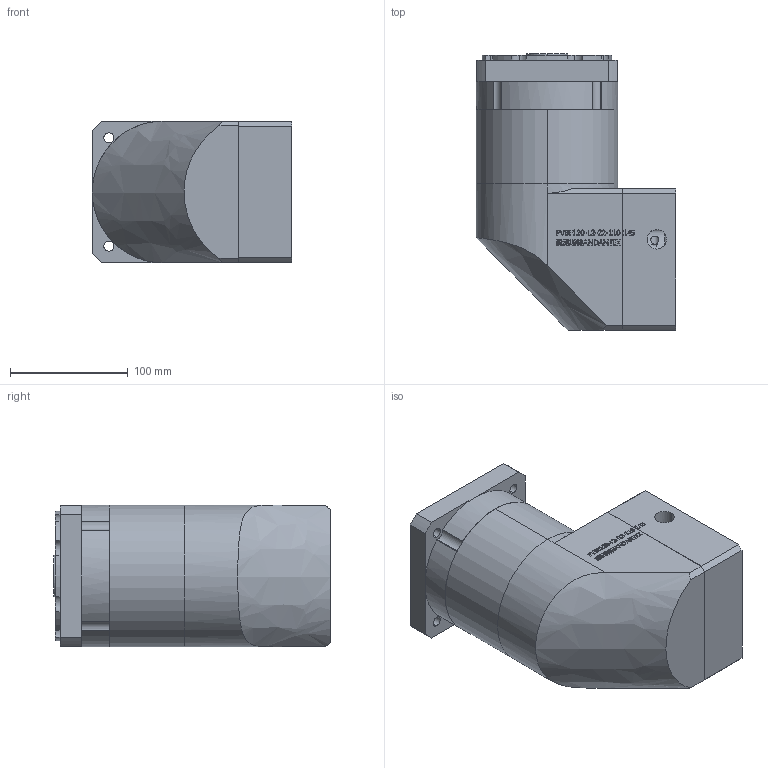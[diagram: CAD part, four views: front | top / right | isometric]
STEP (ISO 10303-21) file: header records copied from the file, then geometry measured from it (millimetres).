
FILE_DESCRIPTION (( 'STEP AP203' ), '1' );
FILE_NAME ('PVBF120-L2-22-110-145.STEP', '2023-11-03T07:19:54', ( 'Windows User' ), ( 'P R C' ), 'SwSTEP 2.0', 'SolidWorks 2016', '' );
FILE_SCHEMA (( 'CONFIG_CONTROL_DESIGN' ));
Length unit declared in the file: millimetre
Products named in the file (8): PVBF120-L2-22-110-145; B-PVBF120-眊极; PVBF120 內齿圈-优化_二级内齿圈; PVBF120 奻屳唳-謂怀堤-20-B6; PVBF120-蟀諉啣; PVBF120-薊粣ん-梓袧; 螺釘範本 M8x20; 粣創-3207A 35x72x27_2
Assembly tree (7 placements, depth 2):
  PVBF120-L2-22-110-145
    B-PVBF120-眊极
    PVBF120 內齿圈-优化_二级内齿圈
    PVBF120 奻屳唳-謂怀堤-20-B6
    PVBF120-蟀諉啣
    PVBF120-薊粣ん-梓袧
    螺釘範本 M8x20
    粣創-3207A 35x72x27_2
Bounding box: 169 x 234.5 x 120 mm (x, y, z)
Volume: 2956788.7 mm3; surface area: 318959.2 mm2
Topology: 7 solids, 15 shells, 1161 faces, 3179 edges, 2094 vertices
Faces by surface type: plane 646, bspline 275, cylinder 216, cone 24
Entity records: 46859 total; most frequent: CARTESIAN_POINT 18078, ORIENTED_EDGE 6326, DIRECTION 4983, EDGE_CURVE 3163, VERTEX_POINT 2094, VECTOR 1865, LINE 1865, AXIS2_PLACEMENT_3D 1559
